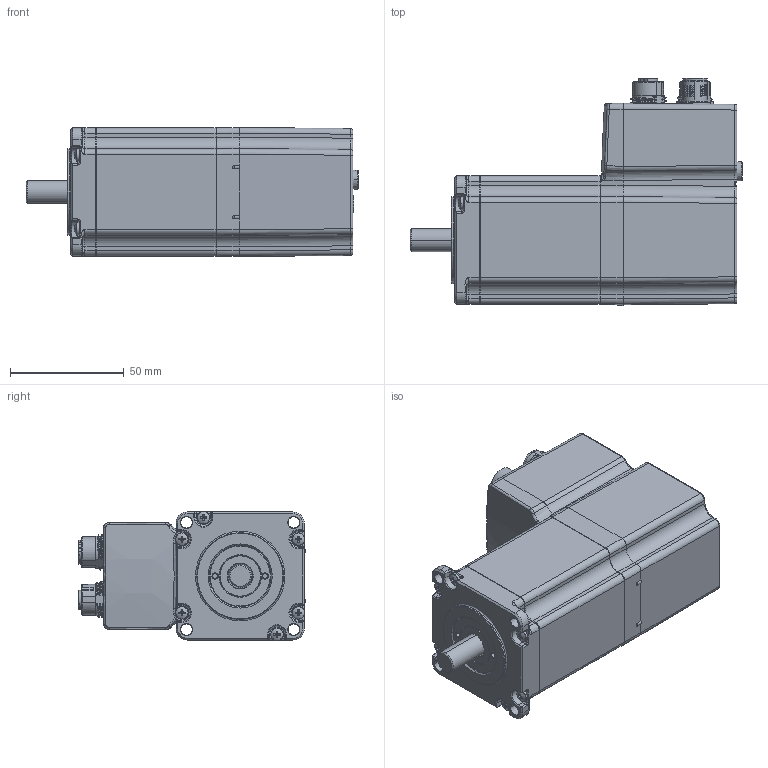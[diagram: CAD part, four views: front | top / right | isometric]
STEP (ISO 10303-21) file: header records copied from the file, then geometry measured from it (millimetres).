
FILE_DESCRIPTION((''),'2;1');
FILE_NAME('STEPPERASSY_ASM','2023-07-14T11:55:02',('VA'),(''),'CREO PARAMETRIC BY PTC INC, 2021063','CREO PARAMETRIC BY PTC INC, 2021063','');
FILE_SCHEMA(('AUTOMOTIVE_DESIGN { 1 0 10303 214 1 1 1 1 }'));
Products named in the file (8): FRONT_CAP_1; STATOR; RADIAL_CON; SHAFT_1; LOCK_NUT_1; SEALING_1; FAST_L; STEPPERASSY_ASM
Assembly tree (12 placements, depth 2):
  STEPPERASSY_ASM
    FRONT_CAP_1
    STATOR
    RADIAL_CON
    SHAFT_1
    LOCK_NUT_1
    SEALING_1
    FAST_L  x6
Bounding box: 145.9 x 99.82 x 56.8 mm (x, y, z)
Volume: 443805.9 mm3; surface area: 63540.4 mm2
Topology: 12 solids, 18 shells, 2252 faces, 5731 edges, 3572 vertices
Faces by surface type: plane 839, cylinder 609, bspline 359, cone 230, torus 179, sphere 34, extrusion 2
Entity records: 119209 total; most frequent: CARTESIAN_POINT 43711, ORIENTED_EDGE 10534, DIRECTION 9631, PRESENTATION_STYLE_ASSIGNMENT 5731, EDGE_CURVE 5269, STYLED_ITEM 4992, CURVE_STYLE 4764, AXIS2_PLACEMENT_3D 3584
